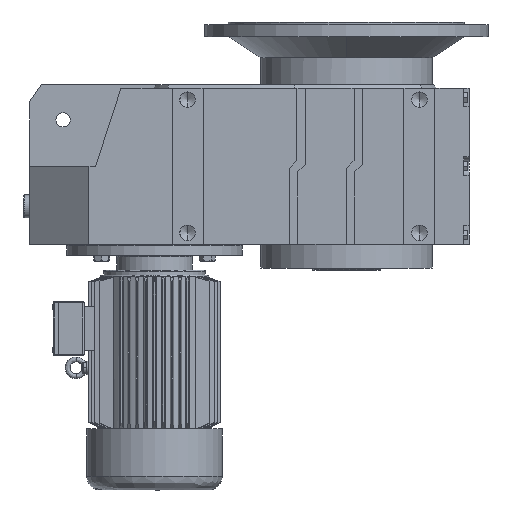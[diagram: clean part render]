
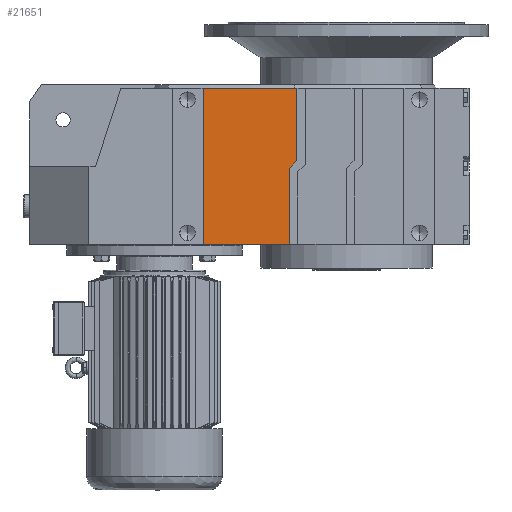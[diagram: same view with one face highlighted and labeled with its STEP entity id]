
A CAD part, left-side view. The second image highlights one B-rep face of the part: STEP entity #21651.
In plain terms, the highlighted planar face has unit normal (-1, 0, 0).
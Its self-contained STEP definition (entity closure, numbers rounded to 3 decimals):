
#592 = CARTESIAN_POINT ( 'NONE',  ( -449.344, -234.432, -34.126 ) ) ;
#1247 = VECTOR ( 'NONE', #38848, 1000. ) ;
#3648 = VERTEX_POINT ( 'NONE', #43551 ) ;
#4878 = DIRECTION ( 'NONE',  ( 0., 0., -1. ) ) ;
#4927 = ORIENTED_EDGE ( 'NONE', *, *, #33256, .T. ) ;
#8759 = CARTESIAN_POINT ( 'NONE',  ( -449.344, -234.432, -229. ) ) ;
#9148 = EDGE_CURVE ( 'NONE', #3648, #40446, #11452, .T. ) ;
#9656 = DIRECTION ( 'NONE',  ( 0., 0., -1. ) ) ;
#9709 = ORIENTED_EDGE ( 'NONE', *, *, #11067, .F. ) ;
#10078 = CARTESIAN_POINT ( 'NONE',  ( -449.344, -216.758, -51.8 ) ) ;
#10639 = CARTESIAN_POINT ( 'NONE',  ( -449.344, -483.658, -229. ) ) ;
#10794 = PLANE ( 'NONE',  #30190 ) ;
#10904 = CARTESIAN_POINT ( 'NONE',  ( -449.344, -15.658, 135. ) ) ;
#11067 = EDGE_CURVE ( 'NONE', #37339, #40446, #28526, .T. ) ;
#11413 = DIRECTION ( 'NONE',  ( 0., 1., 0. ) ) ;
#11452 = LINE ( 'NONE', #20659, #41488 ) ;
#14381 = DIRECTION ( 'NONE',  ( 0., -0.707, 0.707 ) ) ;
#14925 = ORIENTED_EDGE ( 'NONE', *, *, #36162, .T. ) ;
#15966 = ORIENTED_EDGE ( 'NONE', *, *, #9148, .T. ) ;
#17971 = VECTOR ( 'NONE', #4878, 1000. ) ;
#18121 = ORIENTED_EDGE ( 'NONE', *, *, #34077, .T. ) ;
#18463 = VECTOR ( 'NONE', #9656, 1000. ) ;
#18699 = DIRECTION ( 'NONE',  ( -1., 0., 0. ) ) ;
#19632 = EDGE_LOOP ( 'NONE', ( #9709, #31514, #18121, #14925, #4927, #15966 ) ) ;
#20181 = DIRECTION ( 'NONE',  ( 0., -1., 0. ) ) ;
#20208 = VECTOR ( 'NONE', #14381, 1000. ) ;
#20531 = VECTOR ( 'NONE', #11413, 1000. ) ;
#20659 = CARTESIAN_POINT ( 'NONE',  ( -449.344, -555.658, -229. ) ) ;
#21651 = ADVANCED_FACE ( 'NONE', ( #39730 ), #10794, .T. ) ;
#23704 = LINE ( 'NONE', #8759, #1247 ) ;
#24928 = LINE ( 'NONE', #10078, #20208 ) ;
#25636 = LINE ( 'NONE', #30808, #17971 ) ;
#28313 = CARTESIAN_POINT ( 'NONE',  ( -449.344, -216.758, -229. ) ) ;
#28526 = LINE ( 'NONE', #28313, #18463 ) ;
#30190 = AXIS2_PLACEMENT_3D ( 'NONE', #10639, #18699, #33828 ) ;
#30808 = CARTESIAN_POINT ( 'NONE',  ( -449.344, -15.658, -229. ) ) ;
#31514 = ORIENTED_EDGE ( 'NONE', *, *, #33779, .T. ) ;
#33256 = EDGE_CURVE ( 'NONE', #35036, #3648, #25636, .T. ) ;
#33779 = EDGE_CURVE ( 'NONE', #37339, #40670, #24928, .T. ) ;
#33828 = DIRECTION ( 'NONE',  ( 0., -1., 0. ) ) ;
#34077 = EDGE_CURVE ( 'NONE', #40670, #34670, #23704, .T. ) ;
#34670 = VERTEX_POINT ( 'NONE', #38085 ) ;
#35036 = VERTEX_POINT ( 'NONE', #10904 ) ;
#36162 = EDGE_CURVE ( 'NONE', #34670, #35036, #40535, .T. ) ;
#37339 = VERTEX_POINT ( 'NONE', #38340 ) ;
#37723 = CARTESIAN_POINT ( 'NONE',  ( -449.344, -483.658, 135. ) ) ;
#38085 = CARTESIAN_POINT ( 'NONE',  ( -449.344, -234.432, 135. ) ) ;
#38340 = CARTESIAN_POINT ( 'NONE',  ( -449.344, -216.758, -51.8 ) ) ;
#38848 = DIRECTION ( 'NONE',  ( 0., 0., 1. ) ) ;
#39730 = FACE_OUTER_BOUND ( 'NONE', #19632, .T. ) ;
#40446 = VERTEX_POINT ( 'NONE', #47759 ) ;
#40535 = LINE ( 'NONE', #37723, #20531 ) ;
#40670 = VERTEX_POINT ( 'NONE', #592 ) ;
#41488 = VECTOR ( 'NONE', #20181, 1000. ) ;
#43551 = CARTESIAN_POINT ( 'NONE',  ( -449.344, -15.658, -229. ) ) ;
#47759 = CARTESIAN_POINT ( 'NONE',  ( -449.344, -216.758, -229. ) ) ;
